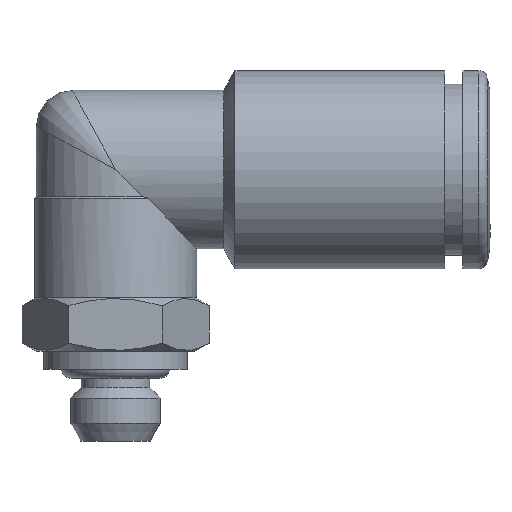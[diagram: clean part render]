
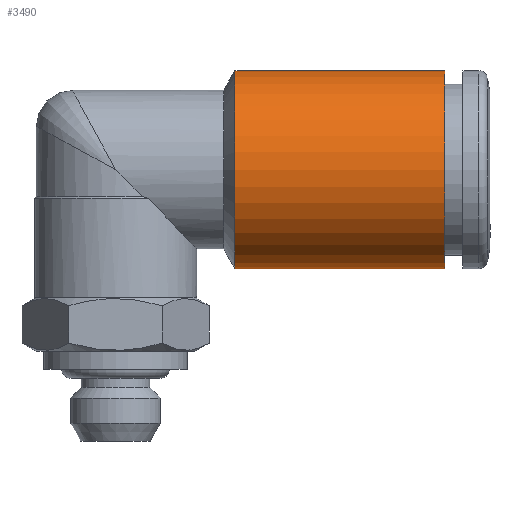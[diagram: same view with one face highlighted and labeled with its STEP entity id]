
A CAD part, front view. The second image highlights one B-rep face of the part: STEP entity #3490.
In plain terms, the highlighted cylindrical face has radius 5.5 mm (diameter 11 mm), a full revolution.
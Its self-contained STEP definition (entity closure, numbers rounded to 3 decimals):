
#734=ORIENTED_EDGE('',*,*,#975,.T.);
#735=ORIENTED_EDGE('',*,*,#976,.F.);
#821=CIRCLE('',#3404,5.5);
#822=CIRCLE('',#3406,5.5);
#894=VERTEX_POINT('',#2810);
#895=VERTEX_POINT('',#2813);
#975=EDGE_CURVE('',#894,#894,#821,.T.);
#976=EDGE_CURVE('',#895,#895,#822,.T.);
#1089=EDGE_LOOP('',(#734));
#1090=EDGE_LOOP('',(#735));
#1208=FACE_BOUND('',#1089,.T.);
#1209=FACE_BOUND('',#1090,.T.);
#1248=CYLINDRICAL_SURFACE('',#3405,5.5);
#1885=DIRECTION('',(-1.,0.,0.));
#1886=DIRECTION('',(0.,5.5,0.));
#1887=DIRECTION('',(-1.,0.,0.));
#1888=DIRECTION('',(0.,1.,0.));
#1889=DIRECTION('',(-1.,0.,0.));
#1890=DIRECTION('',(0.,5.5,0.));
#2810=CARTESIAN_POINT('',(23.699,12.458,0.));
#2811=CARTESIAN_POINT('',(23.699,6.958,0.));
#2812=CARTESIAN_POINT('',(23.699,6.958,0.));
#2813=CARTESIAN_POINT('',(12.034,12.458,0.));
#2814=CARTESIAN_POINT('',(12.034,6.958,0.));
#3404=AXIS2_PLACEMENT_3D('',#2811,#1885,#1886);
#3405=AXIS2_PLACEMENT_3D('',#2812,#1887,#1888);
#3406=AXIS2_PLACEMENT_3D('',#2814,#1889,#1890);
#3490=ADVANCED_FACE('',(#1208,#1209),#1248,.T.);
